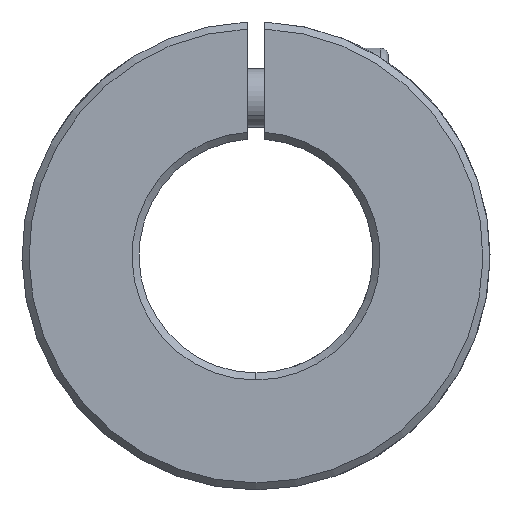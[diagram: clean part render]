
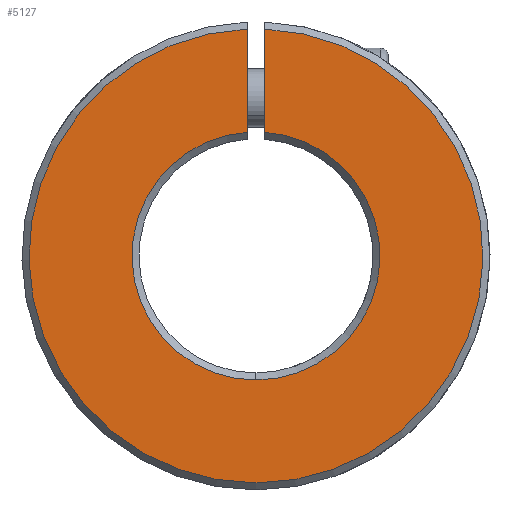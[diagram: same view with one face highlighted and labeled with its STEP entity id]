
A CAD part, front view. The second image highlights one B-rep face of the part: STEP entity #5127.
In plain terms, the highlighted planar face has unit normal (0, -1, 0).
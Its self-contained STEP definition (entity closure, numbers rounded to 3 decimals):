
#158 = ORIENTED_EDGE ( 'NONE', *, *, #2608, .T. ) ;
#171 = DIRECTION ( 'NONE',  ( 0., 1., 0. ) ) ;
#202 = VERTEX_POINT ( 'NONE', #5666 ) ;
#342 = DIRECTION ( 'NONE',  ( 0., 0., -1. ) ) ;
#450 = EDGE_CURVE ( 'NONE', #853, #202, #2384, .T. ) ;
#610 = ORIENTED_EDGE ( 'NONE', *, *, #4520, .T. ) ;
#711 = ORIENTED_EDGE ( 'NONE', *, *, #450, .T. ) ;
#834 = VERTEX_POINT ( 'NONE', #5384 ) ;
#849 = DIRECTION ( 'NONE',  ( 0., 0., 1. ) ) ;
#853 = VERTEX_POINT ( 'NONE', #2834 ) ;
#1272 = LINE ( 'NONE', #5182, #3487 ) ;
#1560 = LINE ( 'NONE', #3796, #3648 ) ;
#1838 = CARTESIAN_POINT ( 'NONE',  ( -0.75, -25., 19.385 ) ) ;
#2098 = ORIENTED_EDGE ( 'NONE', *, *, #5380, .T. ) ;
#2268 = DIRECTION ( 'NONE',  ( 0., 0., 1. ) ) ;
#2318 = PLANE ( 'NONE',  #5333 ) ;
#2384 = CIRCLE ( 'NONE', #2776, 10.6 ) ;
#2424 = VERTEX_POINT ( 'NONE', #4108 ) ;
#2608 = EDGE_CURVE ( 'NONE', #4836, #834, #3113, .T. ) ;
#2776 = AXIS2_PLACEMENT_3D ( 'NONE', #4114, #171, #3680 ) ;
#2834 = CARTESIAN_POINT ( 'NONE',  ( 0.75, -25., 10.573 ) ) ;
#3113 = CIRCLE ( 'NONE', #5506, 19.4 ) ;
#3131 = CIRCLE ( 'NONE', #4215, 10.6 ) ;
#3237 = DIRECTION ( 'NONE',  ( 0., 1., 0. ) ) ;
#3487 = VECTOR ( 'NONE', #849, 1000. ) ;
#3648 = VECTOR ( 'NONE', #342, 1000. ) ;
#3680 = DIRECTION ( 'NONE',  ( 0., 0., 1. ) ) ;
#3796 = CARTESIAN_POINT ( 'NONE',  ( 0.75, -25., 0. ) ) ;
#3874 = CARTESIAN_POINT ( 'NONE',  ( 0., -25., 0. ) ) ;
#4016 = FACE_OUTER_BOUND ( 'NONE', #4623, .T. ) ;
#4108 = CARTESIAN_POINT ( 'NONE',  ( -0.75, -25., 10.573 ) ) ;
#4114 = CARTESIAN_POINT ( 'NONE',  ( 0., -25., 0. ) ) ;
#4215 = AXIS2_PLACEMENT_3D ( 'NONE', #4629, #5564, #5470 ) ;
#4427 = DIRECTION ( 'NONE',  ( 0., -1., 0. ) ) ;
#4512 = ORIENTED_EDGE ( 'NONE', *, *, #5256, .T. ) ;
#4520 = EDGE_CURVE ( 'NONE', #834, #853, #1560, .T. ) ;
#4539 = CARTESIAN_POINT ( 'NONE',  ( 0., -25., 0. ) ) ;
#4623 = EDGE_LOOP ( 'NONE', ( #610, #711, #4512, #2098, #158 ) ) ;
#4629 = CARTESIAN_POINT ( 'NONE',  ( 0., -25., 0. ) ) ;
#4836 = VERTEX_POINT ( 'NONE', #1838 ) ;
#5127 = ADVANCED_FACE ( 'NONE', ( #4016 ), #2318, .F. ) ;
#5182 = CARTESIAN_POINT ( 'NONE',  ( -0.75, -25., 0. ) ) ;
#5256 = EDGE_CURVE ( 'NONE', #202, #2424, #3131, .T. ) ;
#5326 = DIRECTION ( 'NONE',  ( 0., 0., 1. ) ) ;
#5333 = AXIS2_PLACEMENT_3D ( 'NONE', #4539, #3237, #2268 ) ;
#5380 = EDGE_CURVE ( 'NONE', #2424, #4836, #1272, .T. ) ;
#5384 = CARTESIAN_POINT ( 'NONE',  ( 0.75, -25., 19.385 ) ) ;
#5470 = DIRECTION ( 'NONE',  ( 0., 0., 1. ) ) ;
#5506 = AXIS2_PLACEMENT_3D ( 'NONE', #3874, #4427, #5326 ) ;
#5564 = DIRECTION ( 'NONE',  ( 0., 1., 0. ) ) ;
#5666 = CARTESIAN_POINT ( 'NONE',  ( 0., -25., -10.6 ) ) ;
